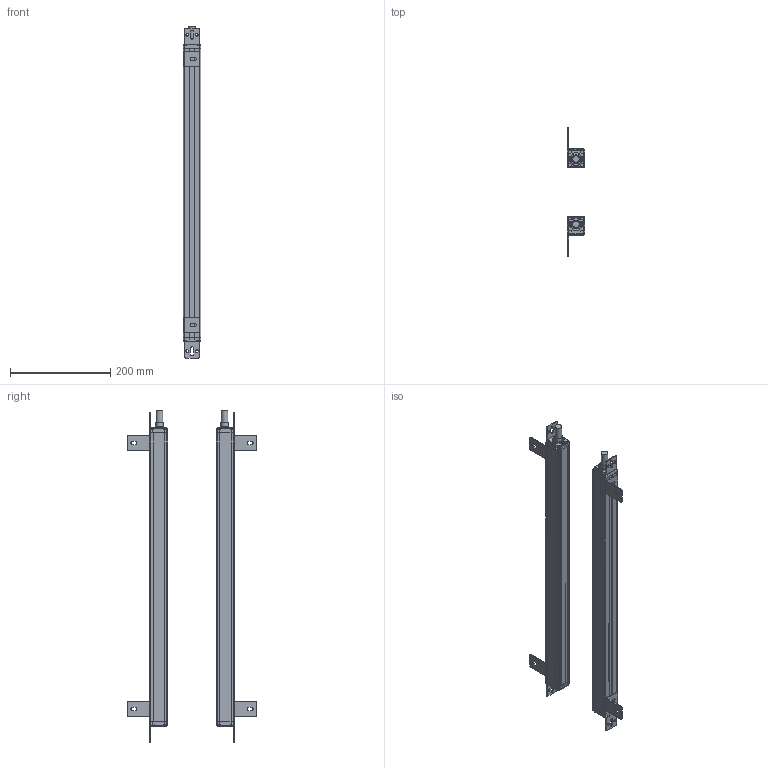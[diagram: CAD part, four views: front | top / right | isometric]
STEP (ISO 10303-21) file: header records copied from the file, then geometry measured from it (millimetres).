
FILE_DESCRIPTION(/* description */ (''),/* implementation_level */ '2;1');
FILE_NAME(/* name */ '1440_35X35.stp',/* time_stamp */ '2023-09-18T15:52:43+08:00',/* author */ (''),/* organization */ (''),/* preprocessor_version */ 'ST-DEVELOPER v16.7',/* originating_system */ 'SIEMENS PLM Software NX 12.0',/* authorisation */ '');
FILE_SCHEMA (('AP203_CONFIGURATION_CONTROLLED_3D_DESIGN_OF_MECHANICAL_PARTS_AND_ASSEMBLIES_MIM_LF { 1 0 10303 403 2 1 2}'));
Length unit declared in the file: millimetre
Products named in the file (1): 1440_35X35_stp
Bounding box: 35.41 x 258.01 x 661.6 mm (x, y, z)
Volume: 601857.9 mm3; surface area: 458628.8 mm2
Topology: 28 solids, 28 shells, 1182 faces, 3360 edges, 2260 vertices
Faces by surface type: plane 658, cylinder 464, cone 60
Full cylindrical faces by diameter (mm): 3.2 x8, 6 x24, 13 x2, 14.4 x2, 15 x2
Entity records: 39055 total; most frequent: DIRECTION 6832, CARTESIAN_POINT 6745, ORIENTED_EDGE 6612, EDGE_CURVE 3306, AXIS2_PLACEMENT_3D 2347, VERTEX_POINT 2244, LINE 2138, VECTOR 2138
